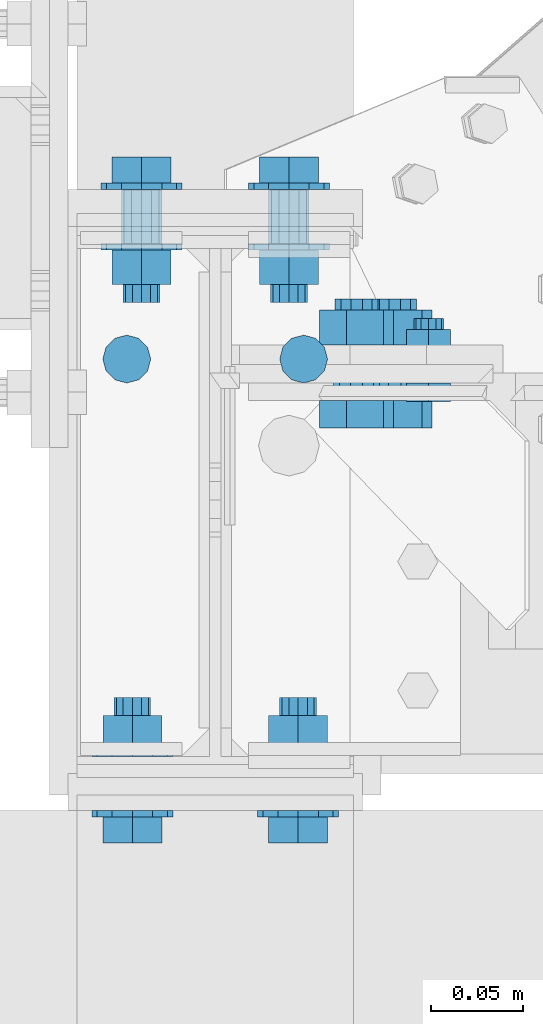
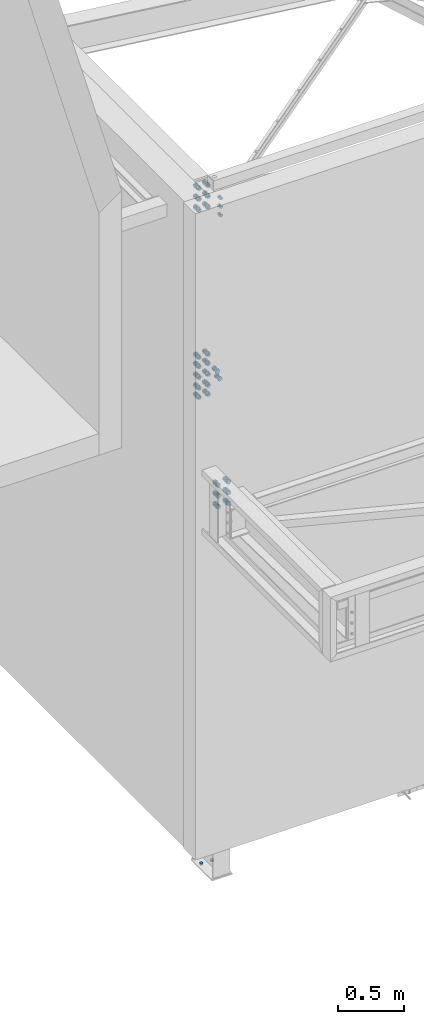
# One storey, part 21 of 3134: 6 mechanical fasteners, 4 elements without a shape of their own.
"""IFC2X3 building model written with IfcOpenShell, lengths in millimetres."""

import ifcopenshell
import ifcopenshell.guid

model = None  # the IFC model being written
_history = None  # IfcOwnerHistory: only IFC2X3 demands one
_inside = {}  # id of a spatial element -> (the spatial element, [elements in it])
_under = {}  # id of a project, library or spatial element -> (it, [spatial elements below it])
_declared = {}  # id of a project -> (the project, [libraries it declares])
_typed = {}  # id of a type object -> (the type object, [elements of that type])
_made_of = {}  # id of a material, layer set ... -> (it, [elements and type objects made of it])


def new_model(schema):
    """Start an empty IFC model of exactly this schema.

    Asked for "IFC4X3", IfcOpenShell would pick the latest addendum, in which some entities
    have other attributes; the version numbers below select the first issue.
    IFC2X3 requires an IfcOwnerHistory on every rooted entity: one is made here for all.
    """
    global model, _history
    if schema == "IFC4X3":
        model = ifcopenshell.file(schema_version=(4, 3, 0, 0))
    else:
        model = ifcopenshell.file(schema=schema)
    _inside.clear()
    _under.clear()
    _declared.clear()
    _typed.clear()
    _made_of.clear()
    _history = None
    if model.schema == "IFC2X3":
        org = make("IfcOrganization", Name="unknown")
        user = make(
            "IfcPersonAndOrganization",
            ThePerson=make("IfcPerson", FamilyName="unknown"),
            TheOrganization=org,
        )
        app = make(
            "IfcApplication",
            ApplicationDeveloper=org,
            Version="unknown",
            ApplicationFullName="unknown",
            ApplicationIdentifier="unknown",
        )
        _history = make(
            "IfcOwnerHistory",
            OwningUser=user,
            OwningApplication=app,
            ChangeAction="ADDED",
            CreationDate=0,
        )
    return model


def make(cls, **values):
    """One entity of the class cls with the attributes given. An attribute that is None is left unset."""
    return model.create_entity(
        cls, **{name: value for name, value in values.items() if value is not None}
    )


def rooted(cls, **values):
    """An entity with a GlobalId (a new one), such as an element, a storey or a relation."""
    return make(cls, GlobalId=ifcopenshell.guid.new(), OwnerHistory=_history, **values)


def si_unit(unit_type, name, prefix=None):
    """IfcSIUnit, for example si_unit("LENGTHUNIT", "METRE", prefix="MILLI")."""
    return make("IfcSIUnit", UnitType=unit_type, Prefix=prefix, Name=name)


def assignment(units):
    """IfcUnitAssignment: the units of a project."""
    return None if units is None else make("IfcUnitAssignment", Units=units)


def point(xyz):
    """IfcCartesianPoint."""
    return None if xyz is None else make("IfcCartesianPoint", Coordinates=xyz)


def direction(xyz):
    """IfcDirection."""
    return None if xyz is None else make("IfcDirection", DirectionRatios=xyz)


def frame(location, z_axis=None, x_axis=None):
    """IfcAxis2Placement3D, a coordinate frame: its origin and axes. An axis left out is left unset."""
    return make(
        "IfcAxis2Placement3D",
        Location=point(location),
        Axis=direction(z_axis),
        RefDirection=direction(x_axis),
    )


def origin_with_axes():
    """The frame at (0, 0, 0) with the z axis (0, 0, 1) and the x axis (1, 0, 0) written out."""
    return frame((0.0, 0.0, 0.0), z_axis=(0.0, 0.0, 1.0), x_axis=(1.0, 0.0, 0.0))


def place(relative_to, where):
    """IfcLocalPlacement: puts the frame where relative to a parent placement (None: the world)."""
    return make(
        "IfcLocalPlacement", PlacementRelTo=relative_to, RelativePlacement=where
    )


def context(
    kind, dimensions, precision=None, world=None, true_north=None, identifier=None
):
    """IfcGeometricRepresentationContext, for example the 3D "Model" context."""
    return make(
        "IfcGeometricRepresentationContext",
        ContextIdentifier=identifier,
        ContextType=kind,
        CoordinateSpaceDimension=dimensions,
        Precision=precision,
        WorldCoordinateSystem=world,
        TrueNorth=true_north,
    )


def subcontext(parent, identifier, kind, view, scale=None):
    """IfcGeometricRepresentationSubContext, for example "Body" below "Model"."""
    return make(
        "IfcGeometricRepresentationSubContext",
        ContextIdentifier=identifier,
        ContextType=kind,
        ParentContext=parent,
        TargetScale=scale,
        TargetView=view,
    )


def project(units=None, contexts=None):
    """IfcProject with its units and contexts."""
    return rooted(
        "IfcProject",
        Name="project",
        RepresentationContexts=contexts,
        UnitsInContext=assignment(units),
    )


def spatial(cls, under=None, at=None, **own):
    """A site, building, storey or space (cls), placed at a placement, below another one or the project."""
    s = rooted(cls, ObjectPlacement=at, **own)
    if under is not None:
        _under.setdefault(under.id(), (under, []))[1].append(s)
    return s


def faces_of(points, faces, orient=None, outer=None):
    """IfcFace entities. A face is a list of loops; a loop is a list of indices into points, from 0.

    orient and outer hold one flag for each loop. By default every Orientation is true, the
    first loop of a face is its IfcFaceOuterBound and the others are IfcFaceBound.
    """
    made = []
    for i, loops in enumerate(faces):
        bounds = []
        for j, loop in enumerate(loops):
            is_outer = j == 0 if outer is None else outer[i][j]
            bounds.append(
                make(
                    "IfcFaceOuterBound" if is_outer else "IfcFaceBound",
                    Bound=make("IfcPolyLoop", Polygon=[points[k] for k in loop]),
                    Orientation=True if orient is None else orient[i][j],
                )
            )
        made.append(make("IfcFace", Bounds=bounds))
    return made


def faceted_brep(points, faces, orient=None, outer=None, voids=None):
    """IfcFacetedBrep: a solid bounded by flat faces; with voids (closed shells), ...WithVoids."""
    shared = [point(p) for p in points]
    hull = make("IfcClosedShell", CfsFaces=faces_of(shared, faces, orient, outer))
    if voids is None:
        return make("IfcFacetedBrep", Outer=hull)
    return make(
        "IfcFacetedBrepWithVoids",
        Outer=hull,
        Voids=[
            make(cls, CfsFaces=faces_of(shared, fs, o, b)) for cls, fs, o, b in voids
        ],
    )


def shape(context_of_items, identifier, shape_type, items):
    """IfcShapeRepresentation: the items that make up one representation, for example the "Body"."""
    return make(
        "IfcShapeRepresentation",
        ContextOfItems=context_of_items,
        RepresentationIdentifier=identifier,
        RepresentationType=shape_type,
        Items=items,
    )


def source(mapping_origin, context_of_items, identifier, shape_type, items):
    """IfcRepresentationMap: a shape defined once, which mapped items show again and again."""
    return make(
        "IfcRepresentationMap",
        MappingOrigin=mapping_origin,
        MappedRepresentation=shape(context_of_items, identifier, shape_type, items),
    )


def transform(
    local_origin,
    x_axis=None,
    y_axis=None,
    z_axis=None,
    scale=None,
    scale2=None,
    scale3=None,
    uniform=True,
):
    """IfcCartesianTransformationOperator3D, or its non-uniform kind. x_axis, y_axis, z_axis: its Axis1, 2, 3."""
    if uniform:
        return make(
            "IfcCartesianTransformationOperator3D",
            Axis1=direction(x_axis),
            Axis2=direction(y_axis),
            LocalOrigin=point(local_origin),
            Scale=scale,
            Axis3=direction(z_axis),
        )
    return make(
        "IfcCartesianTransformationOperator3DnonUniform",
        Axis1=direction(x_axis),
        Axis2=direction(y_axis),
        LocalOrigin=point(local_origin),
        Scale=scale,
        Axis3=direction(z_axis),
        Scale2=scale2,
        Scale3=scale3,
    )


def mapped(mapping_source, mapping_target):
    """IfcMappedItem: shows the shape of a source again, moved by a transform."""
    return make(
        "IfcMappedItem", MappingSource=mapping_source, MappingTarget=mapping_target
    )


def material(Name=None, Category=None):
    """IfcMaterial."""
    return make("IfcMaterial", Name=Name, Category=Category)


def made_of(thing, what):
    """Note that an element or type object is made of a material, layer set ...; save() writes the relation."""
    if what is not None:
        _made_of.setdefault(what.id(), (what, []))[1].append(thing)
    return thing


def type_object(cls, material=None, **own):
    """A type object (cls), such as IfcWallType, which elements share."""
    return made_of(rooted(cls, **own), material)


def element(
    cls,
    number,
    at=None,
    inside=None,
    cuts=None,
    type_object=None,
    material=None,
    context=None,
    identifier="Body",
    shape_type=None,
    held_by="IfcProductDefinitionShape",
    body=None,
    shapes=None,
    **own,
):
    """One element of the class cls, such as IfcWall. Its Tag is "e" and its number.

    at: its placement. inside: the storey or other place that contains it. cuts: it is an
    opening in that element (IfcRelVoidsElement). A single representation is given by context,
    identifier, shape_type and body (its items); several are given by shapes. held_by: the class
    of the entity that holds the representations. save() writes the other relations.
    """
    e = rooted(cls, Tag="e%d" % number, ObjectPlacement=at, **own)
    if body is not None:
        shapes = [shape(context, identifier, shape_type, body)]
    if shapes is not None:
        e.Representation = make(held_by, Representations=shapes)
    if inside is not None:
        _inside.setdefault(inside.id(), (inside, []))[1].append(e)
    if cuts is not None:
        rooted(
            "IfcRelVoidsElement", RelatingBuildingElement=cuts, RelatedOpeningElement=e
        )
    if type_object is not None:
        _typed.setdefault(type_object.id(), (type_object, []))[1].append(e)
    return made_of(e, material)


def aggregate(whole, parts):
    """IfcRelAggregates: a whole, such as a stair, and the parts it consists of."""
    return rooted("IfcRelAggregates", RelatingObject=whole, RelatedObjects=parts)


def save(model, path):
    """Write the relations noted so far, then the file.

    IfcRelAggregates (storeys below a building ...), IfcRelContainedInSpatialStructure (elements
    in a storey), IfcRelDefinesByType, IfcRelAssociatesMaterial and IfcRelDeclares: one each for
    every whole, place, type object, material and project.
    """
    for whole, parts in _under.values():
        aggregate(whole, parts)
    for where, things in _inside.values():
        rooted(
            "IfcRelContainedInSpatialStructure",
            RelatedElements=things,
            RelatingStructure=where,
        )
    for kind, things in _typed.values():
        rooted("IfcRelDefinesByType", RelatedObjects=things, RelatingType=kind)
    for what, things in _made_of.values():
        rooted("IfcRelAssociatesMaterial", RelatedObjects=things, RelatingMaterial=what)
    for by, libraries in _declared.values():
        rooted("IfcRelDeclares", RelatingContext=by, RelatedDefinitions=libraries)
    model.write(path)


model = new_model("IFC2X3")

# Units and contexts
model_context = context("Model", 3, precision=1e-05, world=origin_with_axes())
body_context = subcontext(model_context, "Body", "Model", "MODEL_VIEW")
ifc_project = project(units=[si_unit("LENGTHUNIT", "METRE", prefix="MILLI"), si_unit("AREAUNIT", "SQUARE_METRE"), si_unit("VOLUMEUNIT", "CUBIC_METRE"), si_unit("MASSUNIT", "GRAM", prefix="KILO"), si_unit("TIMEUNIT", "SECOND"), si_unit("PLANEANGLEUNIT", "RADIAN"), si_unit("SOLIDANGLEUNIT", "STERADIAN"), si_unit("THERMODYNAMICTEMPERATUREUNIT", "DEGREE_CELSIUS"), si_unit("LUMINOUSINTENSITYUNIT", "LUMEN")], contexts=[model_context])

# Site, building, storey
site_placement = place(None, origin_with_axes())
site = spatial("IfcSite", under=ifc_project, at=site_placement, CompositionType="ELEMENT")
building_placement = place(site_placement, origin_with_axes())
building = spatial("IfcBuilding", under=site, at=building_placement, Name="Undefined", CompositionType="ELEMENT")
storey_placement = place(building_placement, origin_with_axes())
storey = spatial("IfcBuildingStorey", under=building, at=storey_placement, Name="Undefined", CompositionType="ELEMENT", Elevation=0.0)

# Assembly, mechanical fastener
assembly_1_placement = place(storey_placement, origin_with_axes())
assembly_1 = element("IfcElementAssembly", 1, at=assembly_1_placement, inside=storey, Name="300", AssemblyPlace="NOTDEFINED", PredefinedType="RIGID_FRAME")
ifc_material_1 = material(Name="HR10.9")
mechanical_fastener_type = type_object("IfcMechanicalFastenerType", Name="Bolt assembly")
shared_shape_1 = source(origin_with_axes(), body_context, "Body", "Brep", [
    faceted_brep([(18.475208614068, -17.599999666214, 0.0), (9.23760430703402, -17.599999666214, 16.0), (-9.23760430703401, -17.599999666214, 16.0), (-18.475208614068, -17.599999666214, 2.2625605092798e-15), (-9.23760430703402, -17.599999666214, -16.0), (9.237604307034, -17.599999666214, -16.0), (9.237604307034, -3.70000004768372, -16.0), (-9.23760430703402, -3.70000004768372, -16.0), (-18.475208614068, -3.70000004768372, 2.2625605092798e-15), (-9.23760430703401, -3.70000004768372, 16.0), (9.23760430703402, -3.70000004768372, 16.0), (18.475208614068, -3.70000004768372, 0.0), (10.0, -3.70000004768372, 0.0), (8.66025403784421, -3.70000004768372, 5.0000000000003), (4.9999999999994, -3.70000004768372, 8.66025403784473), (-1.03633598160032e-12, -3.70000004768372, 10.0), (-5.00000000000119, -3.70000004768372, 8.6602540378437), (-8.66025403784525, -3.70000004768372, 4.99999999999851), (-10.0, -3.70000004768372, -2.07267196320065e-12), (-8.66025403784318, -3.70000004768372, -5.00000000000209), (-4.99999999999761, -3.70000004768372, -8.66025403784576), (3.09790571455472e-12, -3.70000004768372, -10.0), (5.00000000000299, -3.70000004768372, -8.66025403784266), (8.66025403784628, -3.70000004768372, -4.99999999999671), (8.66025403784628, 61.2999999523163, -4.99999999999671), (5.00000000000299, 61.2999999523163, -8.66025403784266), (3.09790571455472e-12, 61.2999999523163, -10.0), (-4.99999999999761, 61.2999999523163, -8.66025403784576), (-8.66025403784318, 61.2999999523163, -5.00000000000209), (-10.0, 61.2999999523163, -2.07267196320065e-12), (-8.66025403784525, 61.2999999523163, 4.99999999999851), (-5.00000000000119, 61.2999999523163, 8.6602540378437), (-1.03633598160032e-12, 61.2999999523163, 10.0), (4.9999999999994, 61.2999999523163, 8.66025403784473), (8.66025403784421, 61.2999999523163, 5.0000000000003), (10.0, 61.2999999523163, 0.0), (22.0, -3.70000004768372, 0.0), (19.0525588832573, -3.70000004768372, 11.0000000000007), (10.9999999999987, -3.70000004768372, 19.0525588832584), (-2.27993915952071e-12, -3.70000004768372, 22.0), (-11.0000000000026, -3.70000004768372, 19.0525588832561), (-19.0525588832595, -3.70000004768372, 10.9999999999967), (-22.0, -3.70000004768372, -4.55987831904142e-12), (-19.052558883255, -3.70000004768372, -11.0000000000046), (-10.9999999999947, -3.70000004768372, -19.0525588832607), (6.81539257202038e-12, -3.70000004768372, -22.0), (11.0000000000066, -3.70000004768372, -19.0525588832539), (19.0525588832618, -3.70000004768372, -10.9999999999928), (19.0525588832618, 0.0, -10.9999999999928), (11.0000000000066, 0.0, -19.0525588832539), (6.81539257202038e-12, 0.0, -22.0), (-10.9999999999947, 0.0, -19.0525588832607), (-19.052558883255, 0.0, -11.0000000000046), (-22.0, 0.0, -4.55987831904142e-12), (-19.0525588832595, 0.0, 10.9999999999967), (-11.0000000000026, 0.0, 19.0525588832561), (-2.27993915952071e-12, 0.0, 22.0), (10.9999999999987, 0.0, 19.0525588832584), (19.0525588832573, 0.0, 11.0000000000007), (22.0, 0.0, 0.0), (22.0, 29.1999998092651, 0.0), (19.0525588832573, 29.1999998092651, 11.0000000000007), (10.9999999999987, 29.1999998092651, 19.0525588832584), (-2.27993915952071e-12, 29.1999998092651, 22.0), (-11.0000000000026, 29.1999998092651, 19.0525588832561), (-19.0525588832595, 29.1999998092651, 10.9999999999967), (-22.0, 29.1999998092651, -4.55987831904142e-12), (-19.052558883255, 29.1999998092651, -11.0000000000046), (-10.9999999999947, 29.1999998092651, -19.0525588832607), (6.81539257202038e-12, 29.1999998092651, -22.0), (11.0000000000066, 29.1999998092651, -19.0525588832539), (19.0525588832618, 29.1999998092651, -10.9999999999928), (19.0525588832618, 32.8999998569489, -10.9999999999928), (11.0000000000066, 32.8999998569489, -19.0525588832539), (6.81539257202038e-12, 32.8999998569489, -22.0), (-10.9999999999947, 32.8999998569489, -19.0525588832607), (-19.052558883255, 32.8999998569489, -11.0000000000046), (-22.0, 32.8999998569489, -4.55987831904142e-12), (-19.0525588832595, 32.8999998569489, 10.9999999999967), (-11.0000000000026, 32.8999998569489, 19.0525588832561), (-2.27993915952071e-12, 32.8999998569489, 22.0), (10.9999999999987, 32.8999998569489, 19.0525588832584), (19.0525588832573, 32.8999998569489, 11.0000000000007), (22.0, 32.8999998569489, 0.0), (18.475208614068, 32.8999998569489, 0.0), (9.23760430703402, 32.8999998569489, 16.0), (-9.23760430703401, 32.8999998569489, 16.0), (-18.475208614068, 32.8999998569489, 2.2625605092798e-15), (-9.23760430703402, 32.8999998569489, -16.0), (9.237604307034, 32.8999998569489, -16.0), (9.237604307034, 51.4499990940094, -16.0), (-9.23760430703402, 51.4499990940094, -16.0), (-18.475208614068, 51.4499990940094, 2.2625605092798e-15), (-9.23760430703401, 51.4499990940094, 16.0), (9.23760430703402, 51.4499990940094, 16.0), (18.475208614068, 51.4499990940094, 0.0)], [[[0, 1, 2, 3, 4, 5]], [[6, 7, 8, 9, 10, 11]], [[0, 11, 10, 1]], [[1, 10, 9, 2]], [[2, 9, 8, 3]], [[3, 8, 7, 4]], [[4, 7, 6, 5]], [[5, 6, 11, 0]], [[12, 13, 14, 15, 16, 17, 18, 19, 20, 21, 22, 23]], [[24, 25, 26, 27, 28, 29, 30, 31, 32, 33, 34, 35]], [[12, 35, 34, 13]], [[13, 34, 33, 14]], [[14, 33, 32, 15]], [[15, 32, 31, 16]], [[16, 31, 30, 17]], [[17, 30, 29, 18]], [[18, 29, 28, 19]], [[19, 28, 27, 20]], [[20, 27, 26, 21]], [[21, 26, 25, 22]], [[22, 25, 24, 23]], [[23, 24, 35, 12]], [[36, 37, 38, 39, 40, 41, 42, 43, 44, 45, 46, 47]], [[48, 49, 50, 51, 52, 53, 54, 55, 56, 57, 58, 59]], [[36, 59, 58, 37]], [[37, 58, 57, 38]], [[38, 57, 56, 39]], [[39, 56, 55, 40]], [[40, 55, 54, 41]], [[41, 54, 53, 42]], [[42, 53, 52, 43]], [[43, 52, 51, 44]], [[44, 51, 50, 45]], [[45, 50, 49, 46]], [[46, 49, 48, 47]], [[47, 48, 59, 36]], [[60, 61, 62, 63, 64, 65, 66, 67, 68, 69, 70, 71]], [[72, 73, 74, 75, 76, 77, 78, 79, 80, 81, 82, 83]], [[60, 83, 82, 61]], [[61, 82, 81, 62]], [[62, 81, 80, 63]], [[63, 80, 79, 64]], [[64, 79, 78, 65]], [[65, 78, 77, 66]], [[66, 77, 76, 67]], [[67, 76, 75, 68]], [[68, 75, 74, 69]], [[69, 74, 73, 70]], [[70, 73, 72, 71]], [[71, 72, 83, 60]], [[84, 85, 86, 87, 88, 89]], [[90, 91, 92, 93, 94, 95]], [[84, 95, 94, 85]], [[85, 94, 93, 86]], [[86, 93, 92, 87]], [[87, 92, 91, 88]], [[88, 91, 90, 89]], [[89, 90, 95, 84]]]),
    faceted_brep([(11.0, 19.9, 0.0), (9.52627944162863, 19.9, 5.50000000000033), (5.49999999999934, 19.9, 9.5262794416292), (-1.13996957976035e-12, 19.9, 11.0), (-5.50000000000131, 19.9, 9.52627944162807), (-9.52627944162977, 19.9, 5.49999999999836), (-11.0, 19.9, -2.27993915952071e-12), (-9.5262794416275, 19.9, -5.5000000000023), (-5.49999999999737, 19.9, -9.52627944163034), (3.40769628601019e-12, 19.9, -11.0), (5.50000000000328, 19.9, -9.52627944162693), (9.52627944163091, 19.9, -5.49999999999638), (9.52627944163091, 29.1999998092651, -5.49999999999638), (5.50000000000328, 29.1999998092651, -9.52627944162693), (3.40769628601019e-12, 29.1999998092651, -11.0), (-5.49999999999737, 29.1999998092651, -9.52627944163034), (-9.5262794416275, 29.1999998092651, -5.5000000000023), (-11.0, 29.1999998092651, -2.27993915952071e-12), (-9.52627944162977, 29.1999998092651, 5.49999999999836), (-5.50000000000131, 29.1999998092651, 9.52627944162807), (-1.13996957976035e-12, 29.1999998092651, 11.0), (5.49999999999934, 29.1999998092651, 9.5262794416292), (9.52627944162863, 29.1999998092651, 5.50000000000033), (11.0, 29.1999998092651, 0.0), (11.0, 0.0999999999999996, 0.0), (9.52627944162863, 0.0999999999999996, 5.50000000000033), (5.49999999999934, 0.0999999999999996, 9.5262794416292), (-1.13996957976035e-12, 0.0999999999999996, 11.0), (-5.50000000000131, 0.0999999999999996, 9.52627944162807), (-9.52627944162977, 0.0999999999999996, 5.49999999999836), (-11.0, 0.0999999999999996, -2.27993915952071e-12), (-9.5262794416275, 0.0999999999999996, -5.5000000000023), (-5.49999999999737, 0.0999999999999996, -9.52627944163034), (3.40769628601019e-12, 0.0999999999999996, -11.0), (5.50000000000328, 0.0999999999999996, -9.52627944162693), (9.52627944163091, 0.0999999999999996, -5.49999999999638), (9.52627944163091, 20.1, -5.49999999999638), (5.50000000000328, 20.1, -9.52627944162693), (3.40769628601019e-12, 20.1, -11.0), (-5.49999999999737, 20.1, -9.52627944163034), (-9.5262794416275, 20.1, -5.5000000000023), (-11.0, 20.1, -2.27993915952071e-12), (-9.52627944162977, 20.1, 5.49999999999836), (-5.50000000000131, 20.1, 9.52627944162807), (-1.13996957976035e-12, 20.1, 11.0), (5.49999999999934, 20.1, 9.5262794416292), (9.52627944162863, 20.1, 5.50000000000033), (11.0, 20.1, 0.0)], [[[0, 1, 2, 3, 4, 5, 6, 7, 8, 9, 10, 11]], [[12, 13, 14, 15, 16, 17, 18, 19, 20, 21, 22, 23]], [[0, 23, 22, 1]], [[1, 22, 21, 2]], [[2, 21, 20, 3]], [[3, 20, 19, 4]], [[4, 19, 18, 5]], [[5, 18, 17, 6]], [[6, 17, 16, 7]], [[7, 16, 15, 8]], [[8, 15, 14, 9]], [[9, 14, 13, 10]], [[10, 13, 12, 11]], [[11, 12, 23, 0]], [[24, 25, 26, 27, 28, 29, 30, 31, 32, 33, 34, 35]], [[36, 37, 38, 39, 40, 41, 42, 43, 44, 45, 46, 47]], [[24, 47, 46, 25]], [[25, 46, 45, 26]], [[26, 45, 44, 27]], [[27, 44, 43, 28]], [[28, 43, 42, 29]], [[29, 42, 41, 30]], [[30, 41, 40, 31]], [[31, 40, 39, 32]], [[32, 39, 38, 33]], [[33, 38, 37, 34]], [[34, 37, 36, 35]], [[35, 36, 47, 24]]]),
])
mechanical_fastener_1_placement = place(assembly_1_placement, frame((20850.0, -245.0, 3270.85230476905), z_axis=(1.0, 0.0, 0.0), x_axis=(0.0, 0.0, -1.0)))
mechanical_fastener_1 = element("IfcMechanicalFastener", 2, at=mechanical_fastener_1_placement, type_object=mechanical_fastener_type, material=ifc_material_1, Name="Bolt assembly", NominalDiameter=20.0, NominalLength=65.0, context=body_context, shape_type="MappedRepresentation", body=[
    mapped(shared_shape_1, transform((0.0, 0.0, -45.0))),
    mapped(shared_shape_1, transform((100.0, 0.0, -45.0))),
    mapped(shared_shape_1, transform((200.0, 0.0, -45.0))),
    mapped(shared_shape_1, transform((0.0, 0.0, 45.0))),
    mapped(shared_shape_1, transform((100.0, 0.0, 45.0))),
    mapped(shared_shape_1, transform((200.0, 0.0, 45.0))),
])
aggregate(assembly_1, [mechanical_fastener_1])

# Assembly, mechanical fasteners
assembly_2_placement = place(storey_placement, origin_with_axes())
assembly_2 = element("IfcElementAssembly", 3, at=assembly_2_placement, inside=storey, Name="300", AssemblyPlace="NOTDEFINED", PredefinedType="RIGID_FRAME")
mechanical_fastener_2_placement = place(assembly_2_placement, frame((20850.0, 92.0, 4273.5), z_axis=(-1.0, 0.0, 0.0), x_axis=(0.0, 0.0, -1.0)))
mechanical_fastener_2 = element("IfcMechanicalFastener", 4, at=mechanical_fastener_2_placement, type_object=mechanical_fastener_type, material=ifc_material_1, Name="Bolt assembly", NominalDiameter=20.0, NominalLength=65.0, context=body_context, shape_type="MappedRepresentation", body=[
    mapped(shared_shape_1, transform((0.0, 0.0, -40.0))),
    mapped(shared_shape_1, transform((85.0, 0.0, -40.0))),
    mapped(shared_shape_1, transform((185.0, 0.0, -40.0))),
    mapped(shared_shape_1, transform((285.0, 0.0, -40.0))),
    mapped(shared_shape_1, transform((370.0, 0.0, -40.0))),
    mapped(shared_shape_1, transform((0.0, 0.0, 40.0))),
    mapped(shared_shape_1, transform((85.0, 0.0, 40.0))),
    mapped(shared_shape_1, transform((185.0, 0.0, 40.0))),
    mapped(shared_shape_1, transform((285.0, 0.0, 40.0))),
    mapped(shared_shape_1, transform((370.0, 0.0, 40.0))),
])
mechanical_fastener_3_placement = place(assembly_2_placement, frame((20850.0, 92.0, 5841.5), z_axis=(-1.0, 0.0, 0.0), x_axis=(0.0, 0.0, -1.0)))
mechanical_fastener_3 = element("IfcMechanicalFastener", 5, at=mechanical_fastener_3_placement, type_object=mechanical_fastener_type, material=ifc_material_1, Name="Bolt assembly", NominalDiameter=20.0, NominalLength=65.0, context=body_context, shape_type="MappedRepresentation", body=[
    mapped(shared_shape_1, transform((0.0, 0.0, -40.0))),
    mapped(shared_shape_1, transform((100.0, 0.0, -40.0))),
    mapped(shared_shape_1, transform((200.0, 0.0, -40.0))),
    mapped(shared_shape_1, transform((0.0, 0.0, 40.0))),
    mapped(shared_shape_1, transform((100.0, 0.0, 40.0))),
    mapped(shared_shape_1, transform((200.0, 0.0, 40.0))),
])
aggregate(assembly_2, [mechanical_fastener_2, mechanical_fastener_3])

# Assembly, mechanical fastener
assembly_3_placement = place(storey_placement, origin_with_axes())
assembly_3 = element("IfcElementAssembly", 6, at=assembly_3_placement, inside=storey, Name="300", AssemblyPlace="NOTDEFINED", PredefinedType="RIGID_FRAME")
ifc_material_2 = material(Name="8.8")
shared_shape_2 = source(origin_with_axes(), body_context, "Body", "Brep", [
    faceted_brep([(13.856406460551, -23.0499999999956, 0.0), (6.92820323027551, -23.0499999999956, 12.0), (-6.92820323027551, -23.0499999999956, 12.0), (-13.856406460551, -23.0499999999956, 1.69692038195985e-15), (-6.92820323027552, -23.0499999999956, -12.0), (6.9282032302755, -23.0499999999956, -12.0), (6.9282032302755, -13.0499999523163, -12.0), (-6.92820323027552, -13.0499999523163, -12.0), (-13.856406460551, -13.0499999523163, 1.69692038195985e-15), (-6.92820323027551, -13.0499999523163, 12.0), (6.92820323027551, -13.0499999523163, 12.0), (13.856406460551, -13.0499999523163, 0.0), (8.0, -13.0499999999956, 0.0), (6.92820323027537, -13.0499999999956, 4.00000000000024), (3.99999999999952, -13.0499999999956, 6.92820323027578), (-8.29068785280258e-13, -13.0499999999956, 8.0), (-4.00000000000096, -13.0499999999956, 6.92820323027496), (-6.9282032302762, -13.0499999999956, 3.99999999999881), (-8.0, -13.0499999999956, -1.65813757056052e-12), (-6.92820323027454, -13.0499999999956, -4.00000000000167), (-3.99999999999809, -13.0499999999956, -6.92820323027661), (2.47832457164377e-12, -13.0499999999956, -8.0), (4.00000000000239, -13.0499999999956, -6.92820323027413), (6.92820323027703, -13.0499999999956, -3.99999999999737), (6.92820323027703, 21.9500000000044, -3.99999999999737), (4.00000000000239, 21.9500000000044, -6.92820323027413), (2.47832457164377e-12, 21.9500000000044, -8.0), (-3.99999999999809, 21.9500000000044, -6.92820323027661), (-6.92820323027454, 21.9500000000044, -4.00000000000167), (-8.0, 21.9500000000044, -1.65813757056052e-12), (-6.9282032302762, 21.9500000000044, 3.99999999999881), (-4.00000000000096, 21.9500000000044, 6.92820323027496), (-8.29068785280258e-13, 21.9500000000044, 8.0), (3.99999999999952, 21.9500000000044, 6.92820323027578), (6.92820323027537, 21.9500000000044, 4.00000000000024), (8.0, 21.9500000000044, 0.0), (13.856406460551, 3.04999995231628, 0.0), (6.92820323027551, 3.04999995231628, 12.0), (-6.92820323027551, 3.04999995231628, 12.0), (-13.856406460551, 3.04999995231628, 1.69692038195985e-15), (-6.92820323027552, 3.04999995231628, -12.0), (6.9282032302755, 3.04999995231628, -12.0), (6.9282032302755, 16.0499999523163, -12.0), (-6.92820323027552, 16.0499999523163, -12.0), (-13.856406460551, 16.0499999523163, 1.69692038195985e-15), (-6.92820323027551, 16.0499999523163, 12.0), (6.92820323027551, 16.0499999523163, 12.0), (13.856406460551, 16.0499999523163, 0.0)], [[[0, 1, 2, 3, 4, 5]], [[6, 7, 8, 9, 10, 11]], [[0, 11, 10, 1]], [[1, 10, 9, 2]], [[2, 9, 8, 3]], [[3, 8, 7, 4]], [[4, 7, 6, 5]], [[5, 6, 11, 0]], [[12, 13, 14, 15, 16, 17, 18, 19, 20, 21, 22, 23]], [[24, 25, 26, 27, 28, 29, 30, 31, 32, 33, 34, 35]], [[12, 35, 34, 13]], [[13, 34, 33, 14]], [[14, 33, 32, 15]], [[15, 32, 31, 16]], [[16, 31, 30, 17]], [[17, 30, 29, 18]], [[18, 29, 28, 19]], [[19, 28, 27, 20]], [[20, 27, 26, 21]], [[21, 26, 25, 22]], [[22, 25, 24, 23]], [[23, 24, 35, 12]], [[36, 37, 38, 39, 40, 41]], [[42, 43, 44, 45, 46, 47]], [[36, 47, 46, 37]], [[37, 46, 45, 38]], [[38, 45, 44, 39]], [[39, 44, 43, 40]], [[40, 43, 42, 41]], [[41, 42, 47, 36]]]),
    faceted_brep([(9.0, -12.9499999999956, 0.0), (7.79422863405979, -12.9499999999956, 4.50000000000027), (4.49999999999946, -12.9499999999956, 7.79422863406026), (-9.3270238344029e-13, -12.9499999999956, 9.0), (-4.50000000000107, -12.9499999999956, 7.79422863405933), (-7.79422863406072, -12.9499999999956, 4.49999999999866), (-9.0, -12.9499999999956, -1.86540476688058e-12), (-7.79422863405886, -12.9499999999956, -4.50000000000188), (-4.49999999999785, -12.9499999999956, -7.79422863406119), (2.78811514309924e-12, -12.9499999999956, -9.0), (4.50000000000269, -12.9499999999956, -7.7942286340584), (7.79422863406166, -12.9499999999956, -4.49999999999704), (7.79422863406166, -2.94999995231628, -4.49999999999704), (4.50000000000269, -2.94999995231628, -7.7942286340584), (2.78811514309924e-12, -2.94999995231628, -9.0), (-4.49999999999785, -2.94999995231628, -7.79422863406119), (-7.79422863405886, -2.94999995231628, -4.50000000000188), (-9.0, -2.94999995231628, -1.86540476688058e-12), (-7.79422863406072, -2.94999995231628, 4.49999999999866), (-4.50000000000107, -2.94999995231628, 7.79422863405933), (-9.3270238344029e-13, -2.94999995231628, 9.0), (4.49999999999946, -2.94999995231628, 7.79422863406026), (7.79422863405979, -2.94999995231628, 4.50000000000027), (9.0, -2.94999995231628, 0.0), (9.0, -3.14999995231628, 0.0), (7.79422863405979, -3.14999995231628, 4.50000000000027), (4.49999999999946, -3.14999995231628, 7.79422863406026), (-9.3270238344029e-13, -3.14999995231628, 9.0), (-4.50000000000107, -3.14999995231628, 7.79422863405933), (-7.79422863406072, -3.14999995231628, 4.49999999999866), (-9.0, -3.14999995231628, -1.86540476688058e-12), (-7.79422863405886, -3.14999995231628, -4.50000000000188), (-4.49999999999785, -3.14999995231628, -7.79422863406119), (2.78811514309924e-12, -3.14999995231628, -9.0), (4.50000000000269, -3.14999995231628, -7.7942286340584), (7.79422863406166, -3.14999995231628, -4.49999999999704), (7.79422863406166, 3.04999995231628, -4.49999999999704), (4.50000000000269, 3.04999995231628, -7.7942286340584), (2.78811514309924e-12, 3.04999995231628, -9.0), (-4.49999999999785, 3.04999995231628, -7.79422863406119), (-7.79422863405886, 3.04999995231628, -4.50000000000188), (-9.0, 3.04999995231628, -1.86540476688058e-12), (-7.79422863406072, 3.04999995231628, 4.49999999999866), (-4.50000000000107, 3.04999995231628, 7.79422863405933), (-9.3270238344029e-13, 3.04999995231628, 9.0), (4.49999999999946, 3.04999995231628, 7.79422863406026), (7.79422863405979, 3.04999995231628, 4.50000000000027), (9.0, 3.04999995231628, 0.0)], [[[0, 1, 2, 3, 4, 5, 6, 7, 8, 9, 10, 11]], [[12, 13, 14, 15, 16, 17, 18, 19, 20, 21, 22, 23]], [[0, 23, 22, 1]], [[1, 22, 21, 2]], [[2, 21, 20, 3]], [[3, 20, 19, 4]], [[4, 19, 18, 5]], [[5, 18, 17, 6]], [[6, 17, 16, 7]], [[7, 16, 15, 8]], [[8, 15, 14, 9]], [[9, 14, 13, 10]], [[10, 13, 12, 11]], [[11, 12, 23, 0]], [[24, 25, 26, 27, 28, 29, 30, 31, 32, 33, 34, 35]], [[36, 37, 38, 39, 40, 41, 42, 43, 44, 45, 46, 47]], [[24, 47, 46, 25]], [[25, 46, 45, 26]], [[26, 45, 44, 27]], [[27, 44, 43, 28]], [[28, 43, 42, 29]], [[29, 42, 41, 30]], [[30, 41, 40, 31]], [[31, 40, 39, 32]], [[32, 39, 38, 33]], [[33, 38, 37, 34]], [[34, 37, 36, 35]], [[35, 36, 47, 24]]]),
])
mechanical_fastener_4_placement = place(assembly_3_placement, frame((20965.8141779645, 0.0, 5735.34610612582), z_axis=(1.0, 0.0, 0.0), x_axis=(0.0, 0.0, -1.0)))
mechanical_fastener_4 = element("IfcMechanicalFastener", 7, at=mechanical_fastener_4_placement, type_object=mechanical_fastener_type, material=ifc_material_2, Name="Bolt assembly", NominalDiameter=16.0, NominalLength=35.0, context=body_context, shape_type="MappedRepresentation", body=[
    mapped(shared_shape_2, transform((0.0, 0.0, 0.0))),
    mapped(shared_shape_2, transform((80.0, 0.0, 0.0))),
    mapped(shared_shape_2, transform((160.0, 0.0, 0.0))),
])
aggregate(assembly_3, [mechanical_fastener_4])

# Assembly, mechanical fasteners
assembly_4_placement = place(storey_placement, origin_with_axes())
assembly_4 = element("IfcElementAssembly", 8, at=assembly_4_placement, inside=storey, Name="300", AssemblyPlace="NOTDEFINED", PredefinedType="RIGID_FRAME")
shared_shape_3 = source(origin_with_axes(), body_context, "Body", "Brep", [
    faceted_brep([(20.7846096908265, -37.5, 0.0), (10.3923048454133, -37.5, 18.0), (-10.3923048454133, -37.5, 18.0), (-20.7846096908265, -37.5, 2.54538057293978e-15), (-10.3923048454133, -37.5, -18.0), (10.3923048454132, -37.5, -18.0), (10.3923048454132, -22.5, -18.0), (-10.3923048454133, -22.5, -18.0), (-20.7846096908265, -22.5, 2.54538057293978e-15), (-10.3923048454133, -22.5, 18.0), (10.3923048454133, -22.5, 18.0), (20.7846096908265, -22.5, 0.0), (12.0, -22.5, 0.0), (10.3923048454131, -22.5, 6.00000000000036), (5.99999999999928, -22.5, 10.3923048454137), (-1.24360317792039e-12, -22.5, 12.0), (-6.00000000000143, -22.5, 10.3923048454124), (-10.3923048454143, -22.5, 5.99999999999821), (-12.0, -22.5, -2.48720635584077e-12), (-10.3923048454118, -22.5, -6.00000000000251), (-5.99999999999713, -22.5, -10.3923048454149), (3.71748685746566e-12, -22.5, -12.0), (6.00000000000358, -22.5, -10.3923048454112), (10.3923048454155, -22.5, -5.99999999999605), (10.3923048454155, 32.5, -5.99999999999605), (6.00000000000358, 32.5, -10.3923048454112), (3.71748685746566e-12, 32.5, -12.0), (-5.99999999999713, 32.5, -10.3923048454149), (-10.3923048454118, 32.5, -6.00000000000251), (-12.0, 32.5, -2.48720635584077e-12), (-10.3923048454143, 32.5, 5.99999999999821), (-6.00000000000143, 32.5, 10.3923048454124), (-1.24360317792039e-12, 32.5, 12.0), (5.99999999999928, 32.5, 10.3923048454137), (10.3923048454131, 32.5, 6.00000000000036), (12.0, 32.5, 0.0), (20.7846096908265, 7.5, 0.0), (10.3923048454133, 7.5, 18.0), (-10.3923048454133, 7.5, 18.0), (-20.7846096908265, 7.5, 2.54538057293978e-15), (-10.3923048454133, 7.5, -18.0), (10.3923048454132, 7.5, -18.0), (10.3923048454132, 26.5, -18.0), (-10.3923048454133, 26.5, -18.0), (-20.7846096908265, 26.5, 2.54538057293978e-15), (-10.3923048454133, 26.5, 18.0), (10.3923048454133, 26.5, 18.0), (20.7846096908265, 26.5, 0.0)], [[[0, 1, 2, 3, 4, 5]], [[6, 7, 8, 9, 10, 11]], [[0, 11, 10, 1]], [[1, 10, 9, 2]], [[2, 9, 8, 3]], [[3, 8, 7, 4]], [[4, 7, 6, 5]], [[5, 6, 11, 0]], [[12, 13, 14, 15, 16, 17, 18, 19, 20, 21, 22, 23]], [[24, 25, 26, 27, 28, 29, 30, 31, 32, 33, 34, 35]], [[12, 35, 34, 13]], [[13, 34, 33, 14]], [[14, 33, 32, 15]], [[15, 32, 31, 16]], [[16, 31, 30, 17]], [[17, 30, 29, 18]], [[18, 29, 28, 19]], [[19, 28, 27, 20]], [[20, 27, 26, 21]], [[21, 26, 25, 22]], [[22, 25, 24, 23]], [[23, 24, 35, 12]], [[36, 37, 38, 39, 40, 41]], [[42, 43, 44, 45, 46, 47]], [[36, 47, 46, 37]], [[37, 46, 45, 38]], [[38, 45, 44, 39]], [[39, 44, 43, 40]], [[40, 43, 42, 41]], [[41, 42, 47, 36]]]),
    faceted_brep([(13.0, -22.4, 0.0), (11.2583302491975, -22.4, 6.50000000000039), (6.49999999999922, -22.4, 11.2583302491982), (-1.34723677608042e-12, -22.4, 13.0), (-6.50000000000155, -22.4, 11.2583302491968), (-11.2583302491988, -22.4, 6.49999999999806), (-13.0, -22.4, -2.69447355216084e-12), (-11.2583302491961, -22.4, -6.50000000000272), (-6.4999999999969, -22.4, -11.2583302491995), (4.02727742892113e-12, -22.4, -13.0), (6.50000000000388, -22.4, -11.2583302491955), (11.2583302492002, -22.4, -6.49999999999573), (11.2583302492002, -7.40000000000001, -6.49999999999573), (6.50000000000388, -7.40000000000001, -11.2583302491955), (4.02727742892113e-12, -7.40000000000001, -13.0), (-6.4999999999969, -7.40000000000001, -11.2583302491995), (-11.2583302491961, -7.40000000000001, -6.50000000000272), (-13.0, -7.40000000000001, -2.69447355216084e-12), (-11.2583302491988, -7.40000000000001, 6.49999999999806), (-6.50000000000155, -7.40000000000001, 11.2583302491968), (-1.34723677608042e-12, -7.40000000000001, 13.0), (6.49999999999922, -7.40000000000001, 11.2583302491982), (11.2583302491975, -7.40000000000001, 6.50000000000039), (13.0, -7.40000000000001, 0.0), (13.0, -7.6, 0.0), (11.2583302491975, -7.6, 6.50000000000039), (6.49999999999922, -7.6, 11.2583302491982), (-1.34723677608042e-12, -7.6, 13.0), (-6.50000000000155, -7.6, 11.2583302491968), (-11.2583302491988, -7.6, 6.49999999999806), (-13.0, -7.6, -2.69447355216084e-12), (-11.2583302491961, -7.6, -6.50000000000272), (-6.4999999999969, -7.6, -11.2583302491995), (4.02727742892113e-12, -7.6, -13.0), (6.50000000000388, -7.6, -11.2583302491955), (11.2583302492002, -7.6, -6.49999999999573), (11.2583302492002, 7.5, -6.49999999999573), (6.50000000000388, 7.5, -11.2583302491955), (4.02727742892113e-12, 7.5, -13.0), (-6.4999999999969, 7.5, -11.2583302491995), (-11.2583302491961, 7.5, -6.50000000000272), (-13.0, 7.5, -2.69447355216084e-12), (-11.2583302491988, 7.5, 6.49999999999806), (-6.50000000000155, 7.5, 11.2583302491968), (-1.34723677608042e-12, 7.5, 13.0), (6.49999999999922, 7.5, 11.2583302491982), (11.2583302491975, 7.5, 6.50000000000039), (13.0, 7.5, 0.0)], [[[0, 1, 2, 3, 4, 5, 6, 7, 8, 9, 10, 11]], [[12, 13, 14, 15, 16, 17, 18, 19, 20, 21, 22, 23]], [[0, 23, 22, 1]], [[1, 22, 21, 2]], [[2, 21, 20, 3]], [[3, 20, 19, 4]], [[4, 19, 18, 5]], [[5, 18, 17, 6]], [[6, 17, 16, 7]], [[7, 16, 15, 8]], [[8, 15, 14, 9]], [[9, 14, 13, 10]], [[10, 13, 12, 11]], [[11, 12, 23, 0]], [[24, 25, 26, 27, 28, 29, 30, 31, 32, 33, 34, 35]], [[36, 37, 38, 39, 40, 41, 42, 43, 44, 45, 46, 47]], [[24, 47, 46, 25]], [[25, 46, 45, 26]], [[26, 45, 44, 27]], [[27, 44, 43, 28]], [[28, 43, 42, 29]], [[29, 42, 41, 30]], [[30, 41, 40, 31]], [[31, 40, 39, 32]], [[32, 39, 38, 33]], [[33, 38, 37, 34]], [[34, 37, 36, 35]], [[35, 36, 47, 24]]]),
])
mechanical_fastener_5_placement = place(assembly_4_placement, frame((20926.7262597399, 0.0, 4151.8731173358), z_axis=(0.965573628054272, 0.0, 0.260129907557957), x_axis=(0.260129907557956, 0.0, -0.965573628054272)))
mechanical_fastener_5 = element("IfcMechanicalFastener", 9, at=mechanical_fastener_5_placement, type_object=mechanical_fastener_type, material=ifc_material_2, Name="Bolt assembly", NominalDiameter=24.0, NominalLength=55.0, context=body_context, shape_type="MappedRepresentation", body=[
    mapped(shared_shape_3, transform((0.0, 0.0, 0.0))),
    mapped(shared_shape_3, transform((80.0, 0.0, 0.0))),
])
shared_shape_4 = source(origin_with_axes(), body_context, "Body", "Brep", [
    faceted_brep([(13.0, -25.000000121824, 0.0), (11.2583302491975, -25.000000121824, 6.50000000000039), (6.49999999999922, -25.000000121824, 11.2583302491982), (-1.34723677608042e-12, -25.000000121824, 13.0), (-6.50000000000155, -25.000000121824, 11.2583302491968), (-11.2583302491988, -25.000000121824, 6.49999999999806), (-13.0, -25.000000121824, -2.69447355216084e-12), (-11.2583302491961, -25.000000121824, -6.50000000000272), (-6.4999999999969, -25.000000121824, -11.2583302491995), (4.02727742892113e-12, -25.000000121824, -13.0), (6.50000000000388, -25.000000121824, -11.2583302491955), (11.2583302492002, -25.000000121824, -6.49999999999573), (11.2583302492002, -12.900000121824, -6.49999999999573), (6.50000000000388, -12.900000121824, -11.2583302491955), (4.02727742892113e-12, -12.900000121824, -13.0), (-6.4999999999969, -12.900000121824, -11.2583302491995), (-11.2583302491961, -12.900000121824, -6.50000000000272), (-13.0, -12.900000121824, -2.69447355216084e-12), (-11.2583302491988, -12.900000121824, 6.49999999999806), (-6.50000000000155, -12.900000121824, 11.2583302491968), (-1.34723677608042e-12, -12.900000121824, 13.0), (6.49999999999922, -12.900000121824, 11.2583302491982), (11.2583302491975, -12.900000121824, 6.50000000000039), (13.0, -12.900000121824, 0.0)], [[[0, 1, 2, 3, 4, 5, 6, 7, 8, 9, 10, 11]], [[12, 13, 14, 15, 16, 17, 18, 19, 20, 21, 22, 23]], [[0, 23, 22, 1]], [[1, 22, 21, 2]], [[2, 21, 20, 3]], [[3, 20, 19, 4]], [[4, 19, 18, 5]], [[5, 18, 17, 6]], [[6, 17, 16, 7]], [[7, 16, 15, 8]], [[8, 15, 14, 9]], [[9, 14, 13, 10]], [[10, 13, 12, 11]], [[11, 12, 23, 0]]]),
])
mechanical_fastener_6_placement = place(assembly_4_placement, frame((20850.0000000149, -301.499999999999, -374.999999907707), z_axis=(1.0, 0.0, 0.0), x_axis=(0.0, 1.0, 0.0)))
mechanical_fastener_6 = element("IfcMechanicalFastener", 10, at=mechanical_fastener_6_placement, type_object=mechanical_fastener_type, material=ifc_material_2, Name="Bolt assembly", NominalDiameter=24.0, NominalLength=12.0, context=body_context, shape_type="MappedRepresentation", body=[
    mapped(shared_shape_4, transform((301.5, 0.0, -48.0))),
    mapped(shared_shape_4, transform((301.5, 0.0, 48.0))),
])
aggregate(assembly_4, [mechanical_fastener_5, mechanical_fastener_6])

save(model, "model.ifc")
